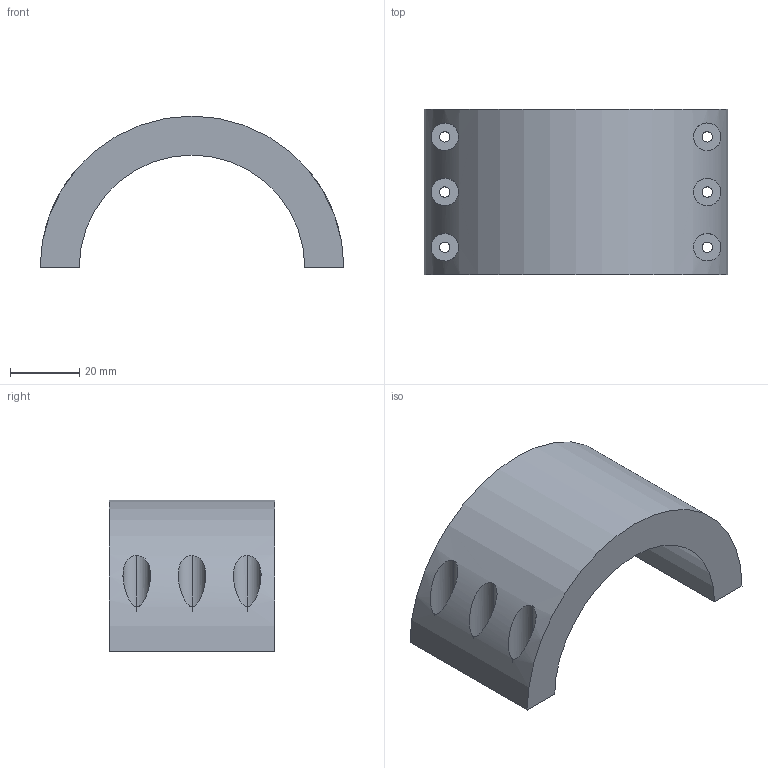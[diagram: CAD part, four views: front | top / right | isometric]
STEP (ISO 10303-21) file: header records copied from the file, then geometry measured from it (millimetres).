
FILE_DESCRIPTION (( 'STEP AP203' ), '1' );
FILE_NAME ('lock 65mm.STEP', '2023-07-14T06:24:51', ( '' ), ( '' ), 'SwSTEP 2.0', 'SolidWorks 2014', '' );
FILE_SCHEMA (( 'CONFIG_CONTROL_DESIGN' ));
Length unit declared in the file: millimetre
Products named in the file (1): lock 65mm
Bounding box: 88 x 48 x 44 mm (x, y, z)
Volume: 60925.6 mm3; surface area: 17406 mm2
Topology: 1 solids, 1 shells, 36 faces, 84 edges, 56 vertices
Faces by surface type: cylinder 26, plane 10
Entity records: 1611 total; most frequent: CARTESIAN_POINT 663, DIRECTION 186, ORIENTED_EDGE 168, EDGE_CURVE 84, AXIS2_PLACEMENT_3D 77, VERTEX_POINT 56, EDGE_LOOP 54, CIRCLE 40
